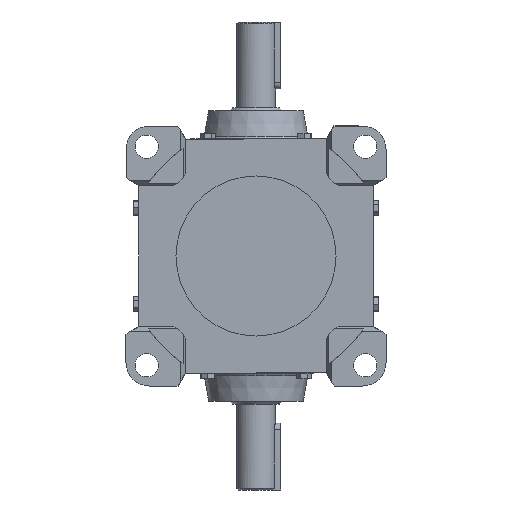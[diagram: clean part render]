
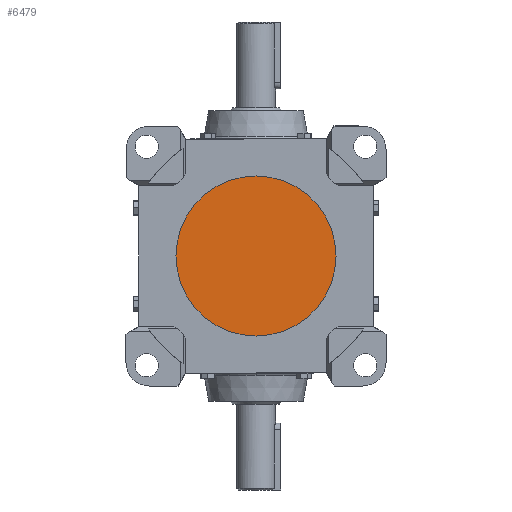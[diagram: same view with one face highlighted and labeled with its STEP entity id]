
A CAD part, front view. The second image highlights one B-rep face of the part: STEP entity #6479.
In plain terms, the highlighted planar face has unit normal (0, -1, 0).
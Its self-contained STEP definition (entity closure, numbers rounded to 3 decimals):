
#1351 = CIRCLE ( 'NONE', #13513, 30.773 ) ;
#2077 = CARTESIAN_POINT ( 'NONE',  ( 0., -45., 0. ) ) ;
#3659 = VERTEX_POINT ( 'NONE', #11428 ) ;
#3690 = ORIENTED_EDGE ( 'NONE', *, *, #17141, .T. ) ;
#4885 = DIRECTION ( 'NONE',  ( 0., -1., 0. ) ) ;
#5492 = PLANE ( 'NONE',  #9487 ) ;
#5695 = EDGE_LOOP ( 'NONE', ( #10366, #3690 ) ) ;
#5940 = CIRCLE ( 'NONE', #12715, 30.773 ) ;
#6479 = ADVANCED_FACE ( 'NONE', ( #11968 ), #5492, .T. ) ;
#8199 = CARTESIAN_POINT ( 'NONE',  ( 0., -45., 0. ) ) ;
#9487 = AXIS2_PLACEMENT_3D ( 'NONE', #8199, #13468, #10774 ) ;
#10366 = ORIENTED_EDGE ( 'NONE', *, *, #12100, .T. ) ;
#10774 = DIRECTION ( 'NONE',  ( 0., 0., -1. ) ) ;
#11428 = CARTESIAN_POINT ( 'NONE',  ( 0., -45., -30.773 ) ) ;
#11755 = DIRECTION ( 'NONE',  ( 0., 0., -1. ) ) ;
#11851 = VERTEX_POINT ( 'NONE', #13595 ) ;
#11968 = FACE_OUTER_BOUND ( 'NONE', #5695, .T. ) ;
#12100 = EDGE_CURVE ( 'NONE', #3659, #11851, #1351, .T. ) ;
#12715 = AXIS2_PLACEMENT_3D ( 'NONE', #14644, #15909, #13233 ) ;
#13233 = DIRECTION ( 'NONE',  ( 0., 0., -1. ) ) ;
#13468 = DIRECTION ( 'NONE',  ( 0., -1., 0. ) ) ;
#13513 = AXIS2_PLACEMENT_3D ( 'NONE', #2077, #4885, #11755 ) ;
#13595 = CARTESIAN_POINT ( 'NONE',  ( 0., -45., 30.773 ) ) ;
#14644 = CARTESIAN_POINT ( 'NONE',  ( 0., -45., 0. ) ) ;
#15909 = DIRECTION ( 'NONE',  ( 0., -1., 0. ) ) ;
#17141 = EDGE_CURVE ( 'NONE', #11851, #3659, #5940, .T. ) ;
